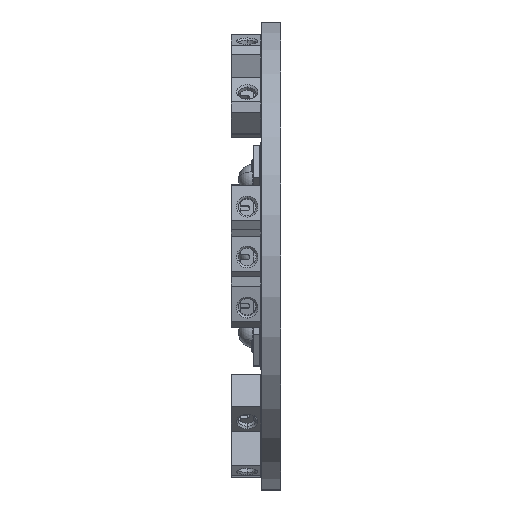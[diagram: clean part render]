
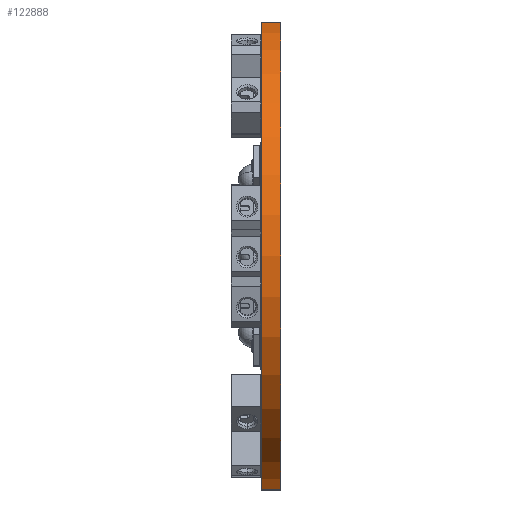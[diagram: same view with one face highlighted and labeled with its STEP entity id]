
A CAD part, left-side view. The second image highlights one B-rep face of the part: STEP entity #122888.
In plain terms, the highlighted cylindrical face has radius 20 mm (diameter 40 mm), a partial arc.
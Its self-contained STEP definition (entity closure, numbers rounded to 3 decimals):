
#2694 = VERTEX_POINT ( 'NONE', #120667 ) ;
#5865 = ORIENTED_EDGE ( 'NONE', *, *, #35160, .T. ) ;
#6369 = CARTESIAN_POINT ( 'NONE',  ( 88.658, 1.6, -37.444 ) ) ;
#7076 = DIRECTION ( 'NONE',  ( 0., -1., 0. ) ) ;
#9025 = FACE_OUTER_BOUND ( 'NONE', #61978, .T. ) ;
#11860 = AXIS2_PLACEMENT_3D ( 'NONE', #6369, #93405, #69639 ) ;
#19395 = CIRCLE ( 'NONE', #76702, 20. ) ;
#22301 = ORIENTED_EDGE ( 'NONE', *, *, #95715, .F. ) ;
#26453 = CARTESIAN_POINT ( 'NONE',  ( 85.158, 0., -17.752 ) ) ;
#28362 = EDGE_CURVE ( 'NONE', #75269, #129477, #117761, .T. ) ;
#28501 = LINE ( 'NONE', #96146, #51088 ) ;
#31949 = DIRECTION ( 'NONE',  ( 0., 0., 1. ) ) ;
#33463 = CARTESIAN_POINT ( 'NONE',  ( 85.158, 1.6, -17.752 ) ) ;
#35160 = EDGE_CURVE ( 'NONE', #2694, #129477, #19395, .T. ) ;
#39541 = VECTOR ( 'NONE', #7076, 1000. ) ;
#41491 = DIRECTION ( 'NONE',  ( 0., -1., 0. ) ) ;
#51088 = VECTOR ( 'NONE', #41491, 1000. ) ;
#52867 = CARTESIAN_POINT ( 'NONE',  ( 88.658, 0., -37.444 ) ) ;
#55716 = DIRECTION ( 'NONE',  ( 0., 0., -1. ) ) ;
#61978 = EDGE_LOOP ( 'NONE', ( #5865, #83016, #22301, #107464 ) ) ;
#68084 = CARTESIAN_POINT ( 'NONE',  ( 85.158, 1.6, -57.135 ) ) ;
#69639 = DIRECTION ( 'NONE',  ( 0., 0., 1. ) ) ;
#75269 = VERTEX_POINT ( 'NONE', #33463 ) ;
#76091 = CIRCLE ( 'NONE', #11860, 20. ) ;
#76102 = EDGE_CURVE ( 'NONE', #113669, #2694, #28501, .T. ) ;
#76702 = AXIS2_PLACEMENT_3D ( 'NONE', #52867, #140544, #31949 ) ;
#80961 = AXIS2_PLACEMENT_3D ( 'NONE', #84465, #128389, #55716 ) ;
#83016 = ORIENTED_EDGE ( 'NONE', *, *, #28362, .F. ) ;
#84465 = CARTESIAN_POINT ( 'NONE',  ( 88.658, 1.6, -37.444 ) ) ;
#93405 = DIRECTION ( 'NONE',  ( 0., 1., 0. ) ) ;
#95715 = EDGE_CURVE ( 'NONE', #113669, #75269, #76091, .T. ) ;
#96146 = CARTESIAN_POINT ( 'NONE',  ( 85.158, 1.6, -57.135 ) ) ;
#96214 = CARTESIAN_POINT ( 'NONE',  ( 85.158, 1.6, -17.752 ) ) ;
#107464 = ORIENTED_EDGE ( 'NONE', *, *, #76102, .T. ) ;
#113669 = VERTEX_POINT ( 'NONE', #68084 ) ;
#117761 = LINE ( 'NONE', #96214, #39541 ) ;
#119773 = CYLINDRICAL_SURFACE ( 'NONE', #80961, 20. ) ;
#120667 = CARTESIAN_POINT ( 'NONE',  ( 85.158, 0., -57.135 ) ) ;
#122888 = ADVANCED_FACE ( 'NONE', ( #9025 ), #119773, .T. ) ;
#128389 = DIRECTION ( 'NONE',  ( 0., -1., 0. ) ) ;
#129477 = VERTEX_POINT ( 'NONE', #26453 ) ;
#140544 = DIRECTION ( 'NONE',  ( 0., 1., 0. ) ) ;
